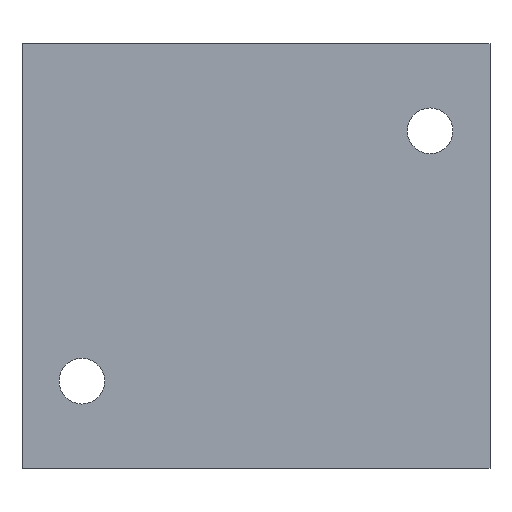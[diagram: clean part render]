
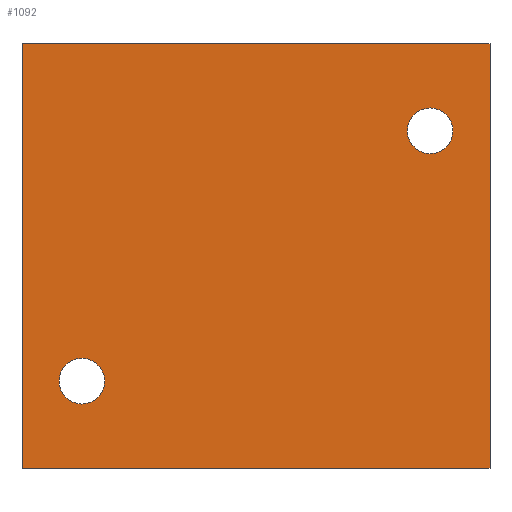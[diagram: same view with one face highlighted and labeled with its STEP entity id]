
A CAD part, front view. The second image highlights one B-rep face of the part: STEP entity #1092.
In plain terms, the highlighted planar face has unit normal (0, -1, 0).
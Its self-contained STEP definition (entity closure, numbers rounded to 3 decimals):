
#13 = AXIS2_PLACEMENT_3D ( 'NONE', #312, #1308, #1358 ) ;
#14 = DIRECTION ( 'NONE',  ( 0., 0., -1. ) ) ;
#23 = VERTEX_POINT ( 'NONE', #664 ) ;
#104 = EDGE_LOOP ( 'NONE', ( #1378, #732 ) ) ;
#173 = DIRECTION ( 'NONE',  ( 0., 0., -1. ) ) ;
#183 = CARTESIAN_POINT ( 'NONE',  ( 16., -14., 11.5 ) ) ;
#191 = VERTEX_POINT ( 'NONE', #1246 ) ;
#208 = CARTESIAN_POINT ( 'NONE',  ( -16., -14., -11.5 ) ) ;
#229 = CARTESIAN_POINT ( 'NONE',  ( 16., -14., 13.6 ) ) ;
#248 = DIRECTION ( 'NONE',  ( 0., 0., -1. ) ) ;
#255 = EDGE_CURVE ( 'NONE', #1230, #1573, #730, .T. ) ;
#260 = ORIENTED_EDGE ( 'NONE', *, *, #427, .F. ) ;
#284 = CARTESIAN_POINT ( 'NONE',  ( -21.5, -14., 19.5 ) ) ;
#291 = DIRECTION ( 'NONE',  ( 0., 0., 1. ) ) ;
#292 = EDGE_CURVE ( 'NONE', #23, #358, #1523, .T. ) ;
#306 = ORIENTED_EDGE ( 'NONE', *, *, #735, .T. ) ;
#312 = CARTESIAN_POINT ( 'NONE',  ( 16., -14., 11.5 ) ) ;
#314 = EDGE_LOOP ( 'NONE', ( #1192, #572, #838, #306 ) ) ;
#345 = VERTEX_POINT ( 'NONE', #1550 ) ;
#358 = VERTEX_POINT ( 'NONE', #1065 ) ;
#401 = FACE_OUTER_BOUND ( 'NONE', #314, .T. ) ;
#418 = EDGE_CURVE ( 'NONE', #191, #759, #827, .T. ) ;
#422 = DIRECTION ( 'NONE',  ( 0., -1., 0. ) ) ;
#427 = EDGE_CURVE ( 'NONE', #759, #191, #911, .T. ) ;
#452 = AXIS2_PLACEMENT_3D ( 'NONE', #1533, #1139, #14 ) ;
#497 = EDGE_CURVE ( 'NONE', #358, #23, #1159, .T. ) ;
#524 = FACE_BOUND ( 'NONE', #920, .T. ) ;
#531 = VERTEX_POINT ( 'NONE', #1265 ) ;
#533 = DIRECTION ( 'NONE',  ( 0., 1., 0. ) ) ;
#544 = LINE ( 'NONE', #1430, #1548 ) ;
#572 = ORIENTED_EDGE ( 'NONE', *, *, #255, .F. ) ;
#664 = CARTESIAN_POINT ( 'NONE',  ( -16., -14., -13.6 ) ) ;
#730 = LINE ( 'NONE', #871, #1547 ) ;
#732 = ORIENTED_EDGE ( 'NONE', *, *, #497, .F. ) ;
#735 = EDGE_CURVE ( 'NONE', #531, #345, #1522, .T. ) ;
#754 = DIRECTION ( 'NONE',  ( 1., 0., 0. ) ) ;
#759 = VERTEX_POINT ( 'NONE', #229 ) ;
#818 = DIRECTION ( 'NONE',  ( 0., -1., 0. ) ) ;
#827 = CIRCLE ( 'NONE', #1348, 2.1 ) ;
#828 = LINE ( 'NONE', #1326, #1385 ) ;
#838 = ORIENTED_EDGE ( 'NONE', *, *, #1441, .F. ) ;
#871 = CARTESIAN_POINT ( 'NONE',  ( 21.5, -14., 19.5 ) ) ;
#911 = CIRCLE ( 'NONE', #13, 2.1 ) ;
#920 = EDGE_LOOP ( 'NONE', ( #1377, #260 ) ) ;
#931 = DIRECTION ( 'NONE',  ( 0., 0., -1. ) ) ;
#1050 = CARTESIAN_POINT ( 'NONE',  ( -21.5, -14., 19.5 ) ) ;
#1060 = AXIS2_PLACEMENT_3D ( 'NONE', #208, #422, #931 ) ;
#1065 = CARTESIAN_POINT ( 'NONE',  ( -16., -14., -9.4 ) ) ;
#1077 = CARTESIAN_POINT ( 'NONE',  ( 21.5, -14., -19.5 ) ) ;
#1092 = ADVANCED_FACE ( 'NONE', ( #524, #1520, #401 ), #1404, .F. ) ;
#1139 = DIRECTION ( 'NONE',  ( 0., -1., 0. ) ) ;
#1159 = CIRCLE ( 'NONE', #1060, 2.1 ) ;
#1192 = ORIENTED_EDGE ( 'NONE', *, *, #1612, .T. ) ;
#1230 = VERTEX_POINT ( 'NONE', #1360 ) ;
#1246 = CARTESIAN_POINT ( 'NONE',  ( 16., -14., 9.4 ) ) ;
#1265 = CARTESIAN_POINT ( 'NONE',  ( -21.5, -14., 19.5 ) ) ;
#1302 = DIRECTION ( 'NONE',  ( 0., 0., -1. ) ) ;
#1308 = DIRECTION ( 'NONE',  ( 0., -1., 0. ) ) ;
#1326 = CARTESIAN_POINT ( 'NONE',  ( -21.5, -14., -19.5 ) ) ;
#1348 = AXIS2_PLACEMENT_3D ( 'NONE', #183, #818, #1302 ) ;
#1358 = DIRECTION ( 'NONE',  ( 0., 0., -1. ) ) ;
#1360 = CARTESIAN_POINT ( 'NONE',  ( 21.5, -14., 19.5 ) ) ;
#1373 = VECTOR ( 'NONE', #173, 1000. ) ;
#1377 = ORIENTED_EDGE ( 'NONE', *, *, #418, .F. ) ;
#1378 = ORIENTED_EDGE ( 'NONE', *, *, #292, .F. ) ;
#1385 = VECTOR ( 'NONE', #754, 1000. ) ;
#1399 = AXIS2_PLACEMENT_3D ( 'NONE', #284, #533, #291 ) ;
#1404 = PLANE ( 'NONE',  #1399 ) ;
#1430 = CARTESIAN_POINT ( 'NONE',  ( -21.5, -14., 19.5 ) ) ;
#1441 = EDGE_CURVE ( 'NONE', #531, #1230, #544, .T. ) ;
#1520 = FACE_BOUND ( 'NONE', #104, .T. ) ;
#1522 = LINE ( 'NONE', #1050, #1373 ) ;
#1523 = CIRCLE ( 'NONE', #452, 2.1 ) ;
#1533 = CARTESIAN_POINT ( 'NONE',  ( -16., -14., -11.5 ) ) ;
#1540 = DIRECTION ( 'NONE',  ( 1., 0., 0. ) ) ;
#1547 = VECTOR ( 'NONE', #248, 1000. ) ;
#1548 = VECTOR ( 'NONE', #1540, 1000. ) ;
#1550 = CARTESIAN_POINT ( 'NONE',  ( -21.5, -14., -19.5 ) ) ;
#1573 = VERTEX_POINT ( 'NONE', #1077 ) ;
#1612 = EDGE_CURVE ( 'NONE', #345, #1573, #828, .T. ) ;
